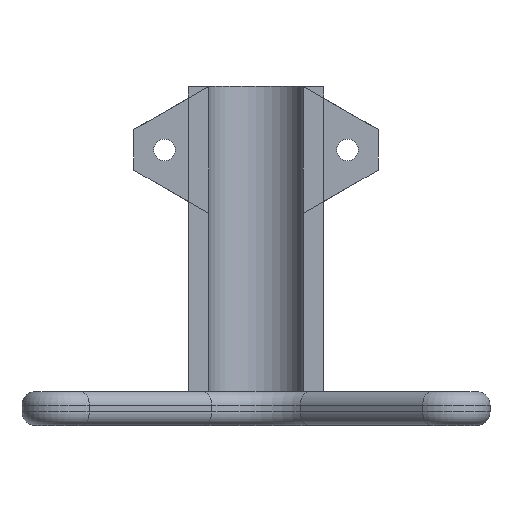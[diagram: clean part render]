
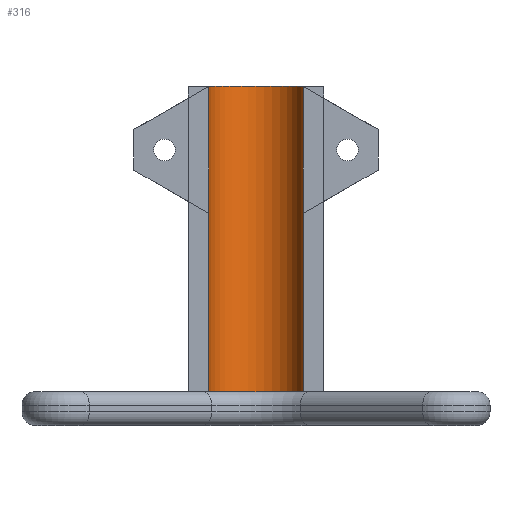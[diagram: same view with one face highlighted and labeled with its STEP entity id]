
A CAD part, left-side view. The second image highlights one B-rep face of the part: STEP entity #316.
In plain terms, the highlighted cylindrical face has radius 7 mm (diameter 14 mm), a partial arc.
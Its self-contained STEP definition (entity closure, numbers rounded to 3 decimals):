
#33 = CYLINDRICAL_SURFACE('',#34,7.);
#34 = AXIS2_PLACEMENT_3D('',#35,#36,#37);
#35 = CARTESIAN_POINT('',(0.,0.,0.));
#36 = DIRECTION('',(-0.,-0.,-1.));
#37 = DIRECTION('',(1.,0.,0.));
#58 = VERTEX_POINT('',#59);
#59 = CARTESIAN_POINT('',(7.,0.,5.));
#73 = CYLINDRICAL_SURFACE('',#74,7.);
#74 = AXIS2_PLACEMENT_3D('',#75,#76,#77);
#75 = CARTESIAN_POINT('',(0.,0.,0.));
#76 = DIRECTION('',(-0.,-0.,-1.));
#77 = DIRECTION('',(1.,0.,0.));
#85 = EDGE_CURVE('',#58,#86,#88,.T.);
#86 = VERTEX_POINT('',#87);
#87 = CARTESIAN_POINT('',(0.,7.,5.));
#88 = SURFACE_CURVE('',#89,(#94,#101),.PCURVE_S1.);
#89 = CIRCLE('',#90,7.);
#90 = AXIS2_PLACEMENT_3D('',#91,#92,#93);
#91 = CARTESIAN_POINT('',(0.,0.,5.));
#92 = DIRECTION('',(0.,0.,1.));
#93 = DIRECTION('',(1.,0.,0.));
#94 = PCURVE('',#33,#95);
#95 = DEFINITIONAL_REPRESENTATION('',(#96),#100);
#96 = LINE('',#97,#98);
#97 = CARTESIAN_POINT('',(-0.,-5.));
#98 = VECTOR('',#99,1.);
#99 = DIRECTION('',(-1.,0.));
#100 = ( GEOMETRIC_REPRESENTATION_CONTEXT(2) 
PARAMETRIC_REPRESENTATION_CONTEXT() REPRESENTATION_CONTEXT('2D SPACE',''
  ) );
#101 = PCURVE('',#102,#107);
#102 = CYLINDRICAL_SURFACE('',#103,7.);
#103 = AXIS2_PLACEMENT_3D('',#104,#105,#106);
#104 = CARTESIAN_POINT('',(0.,0.,0.));
#105 = DIRECTION('',(-0.,-0.,-1.));
#106 = DIRECTION('',(1.,0.,0.));
#107 = DEFINITIONAL_REPRESENTATION('',(#108),#112);
#108 = LINE('',#109,#110);
#109 = CARTESIAN_POINT('',(-6.283,-5.));
#110 = VECTOR('',#111,1.);
#111 = DIRECTION('',(-1.,0.));
#112 = ( GEOMETRIC_REPRESENTATION_CONTEXT(2) 
PARAMETRIC_REPRESENTATION_CONTEXT() REPRESENTATION_CONTEXT('2D SPACE',''
  ) );
#268 = VERTEX_POINT('',#269);
#269 = CARTESIAN_POINT('',(0.,-7.,5.));
#316 = ADVANCED_FACE('',(#317),#102,.F.);
#317 = FACE_BOUND('',#318,.T.);
#318 = EDGE_LOOP('',(#319,#341,#369,#397,#426,#454,#480));
#319 = ORIENTED_EDGE('',*,*,#320,.F.);
#320 = EDGE_CURVE('',#268,#58,#321,.T.);
#321 = SURFACE_CURVE('',#322,(#327,#334),.PCURVE_S1.);
#322 = CIRCLE('',#323,7.);
#323 = AXIS2_PLACEMENT_3D('',#324,#325,#326);
#324 = CARTESIAN_POINT('',(0.,0.,5.));
#325 = DIRECTION('',(0.,0.,1.));
#326 = DIRECTION('',(1.,0.,0.));
#327 = PCURVE('',#102,#328);
#328 = DEFINITIONAL_REPRESENTATION('',(#329),#333);
#329 = LINE('',#330,#331);
#330 = CARTESIAN_POINT('',(0.,-5.));
#331 = VECTOR('',#332,1.);
#332 = DIRECTION('',(-1.,0.));
#333 = ( GEOMETRIC_REPRESENTATION_CONTEXT(2) 
PARAMETRIC_REPRESENTATION_CONTEXT() REPRESENTATION_CONTEXT('2D SPACE',''
  ) );
#334 = PCURVE('',#73,#335);
#335 = DEFINITIONAL_REPRESENTATION('',(#336),#340);
#336 = LINE('',#337,#338);
#337 = CARTESIAN_POINT('',(-0.,-5.));
#338 = VECTOR('',#339,1.);
#339 = DIRECTION('',(-1.,0.));
#340 = ( GEOMETRIC_REPRESENTATION_CONTEXT(2) 
PARAMETRIC_REPRESENTATION_CONTEXT() REPRESENTATION_CONTEXT('2D SPACE',''
  ) );
#341 = ORIENTED_EDGE('',*,*,#342,.T.);
#342 = EDGE_CURVE('',#268,#343,#345,.T.);
#343 = VERTEX_POINT('',#344);
#344 = CARTESIAN_POINT('',(0.,-7.,31.298));
#345 = SURFACE_CURVE('',#346,(#350,#357),.PCURVE_S1.);
#346 = LINE('',#347,#348);
#347 = CARTESIAN_POINT('',(0.,-7.,0.));
#348 = VECTOR('',#349,1.);
#349 = DIRECTION('',(0.,0.,1.));
#350 = PCURVE('',#102,#351);
#351 = DEFINITIONAL_REPRESENTATION('',(#352),#356);
#352 = LINE('',#353,#354);
#353 = CARTESIAN_POINT('',(-4.712,0.));
#354 = VECTOR('',#355,1.);
#355 = DIRECTION('',(-0.,-1.));
#356 = ( GEOMETRIC_REPRESENTATION_CONTEXT(2) 
PARAMETRIC_REPRESENTATION_CONTEXT() REPRESENTATION_CONTEXT('2D SPACE',''
  ) );
#357 = PCURVE('',#358,#363);
#358 = PLANE('',#359);
#359 = AXIS2_PLACEMENT_3D('',#360,#361,#362);
#360 = CARTESIAN_POINT('',(0.,-7.,0.));
#361 = DIRECTION('',(1.,0.,0.));
#362 = DIRECTION('',(0.,-1.,0.));
#363 = DEFINITIONAL_REPRESENTATION('',(#364),#368);
#364 = LINE('',#365,#366);
#365 = CARTESIAN_POINT('',(0.,0.));
#366 = VECTOR('',#367,1.);
#367 = DIRECTION('',(0.,-1.));
#368 = ( GEOMETRIC_REPRESENTATION_CONTEXT(2) 
PARAMETRIC_REPRESENTATION_CONTEXT() REPRESENTATION_CONTEXT('2D SPACE',''
  ) );
#369 = ORIENTED_EDGE('',*,*,#370,.T.);
#370 = EDGE_CURVE('',#343,#371,#373,.T.);
#371 = VERTEX_POINT('',#372);
#372 = CARTESIAN_POINT('',(0.,-7.,50.));
#373 = SURFACE_CURVE('',#374,(#378,#385),.PCURVE_S1.);
#374 = LINE('',#375,#376);
#375 = CARTESIAN_POINT('',(0.,-7.,0.));
#376 = VECTOR('',#377,1.);
#377 = DIRECTION('',(0.,0.,1.));
#378 = PCURVE('',#102,#379);
#379 = DEFINITIONAL_REPRESENTATION('',(#380),#384);
#380 = LINE('',#381,#382);
#381 = CARTESIAN_POINT('',(-4.712,0.));
#382 = VECTOR('',#383,1.);
#383 = DIRECTION('',(-0.,-1.));
#384 = ( GEOMETRIC_REPRESENTATION_CONTEXT(2) 
PARAMETRIC_REPRESENTATION_CONTEXT() REPRESENTATION_CONTEXT('2D SPACE',''
  ) );
#385 = PCURVE('',#386,#391);
#386 = PLANE('',#387);
#387 = AXIS2_PLACEMENT_3D('',#388,#389,#390);
#388 = CARTESIAN_POINT('',(0.,-7.,0.));
#389 = DIRECTION('',(1.,0.,0.));
#390 = DIRECTION('',(0.,-1.,0.));
#391 = DEFINITIONAL_REPRESENTATION('',(#392),#396);
#392 = LINE('',#393,#394);
#393 = CARTESIAN_POINT('',(0.,0.));
#394 = VECTOR('',#395,1.);
#395 = DIRECTION('',(0.,-1.));
#396 = ( GEOMETRIC_REPRESENTATION_CONTEXT(2) 
PARAMETRIC_REPRESENTATION_CONTEXT() REPRESENTATION_CONTEXT('2D SPACE',''
  ) );
#397 = ORIENTED_EDGE('',*,*,#398,.T.);
#398 = EDGE_CURVE('',#371,#399,#401,.T.);
#399 = VERTEX_POINT('',#400);
#400 = CARTESIAN_POINT('',(0.,7.,50.));
#401 = SURFACE_CURVE('',#402,(#407,#414),.PCURVE_S1.);
#402 = CIRCLE('',#403,7.);
#403 = AXIS2_PLACEMENT_3D('',#404,#405,#406);
#404 = CARTESIAN_POINT('',(0.,0.,50.));
#405 = DIRECTION('',(0.,0.,1.));
#406 = DIRECTION('',(1.,0.,0.));
#407 = PCURVE('',#102,#408);
#408 = DEFINITIONAL_REPRESENTATION('',(#409),#413);
#409 = LINE('',#410,#411);
#410 = CARTESIAN_POINT('',(-0.,-50.));
#411 = VECTOR('',#412,1.);
#412 = DIRECTION('',(-1.,0.));
#413 = ( GEOMETRIC_REPRESENTATION_CONTEXT(2) 
PARAMETRIC_REPRESENTATION_CONTEXT() REPRESENTATION_CONTEXT('2D SPACE',''
  ) );
#414 = PCURVE('',#415,#420);
#415 = PLANE('',#416);
#416 = AXIS2_PLACEMENT_3D('',#417,#418,#419);
#417 = CARTESIAN_POINT('',(4.528,0.,50.));
#418 = DIRECTION('',(0.,0.,1.));
#419 = DIRECTION('',(1.,0.,0.));
#420 = DEFINITIONAL_REPRESENTATION('',(#421),#425);
#421 = CIRCLE('',#422,7.);
#422 = AXIS2_PLACEMENT_2D('',#423,#424);
#423 = CARTESIAN_POINT('',(-4.528,0.));
#424 = DIRECTION('',(1.,0.));
#425 = ( GEOMETRIC_REPRESENTATION_CONTEXT(2) 
PARAMETRIC_REPRESENTATION_CONTEXT() REPRESENTATION_CONTEXT('2D SPACE',''
  ) );
#426 = ORIENTED_EDGE('',*,*,#427,.F.);
#427 = EDGE_CURVE('',#428,#399,#430,.T.);
#428 = VERTEX_POINT('',#429);
#429 = CARTESIAN_POINT('',(0.,7.,31.298));
#430 = SURFACE_CURVE('',#431,(#435,#442),.PCURVE_S1.);
#431 = LINE('',#432,#433);
#432 = CARTESIAN_POINT('',(0.,7.,0.));
#433 = VECTOR('',#434,1.);
#434 = DIRECTION('',(0.,0.,1.));
#435 = PCURVE('',#102,#436);
#436 = DEFINITIONAL_REPRESENTATION('',(#437),#441);
#437 = LINE('',#438,#439);
#438 = CARTESIAN_POINT('',(-7.854,0.));
#439 = VECTOR('',#440,1.);
#440 = DIRECTION('',(-0.,-1.));
#441 = ( GEOMETRIC_REPRESENTATION_CONTEXT(2) 
PARAMETRIC_REPRESENTATION_CONTEXT() REPRESENTATION_CONTEXT('2D SPACE',''
  ) );
#442 = PCURVE('',#443,#448);
#443 = PLANE('',#444);
#444 = AXIS2_PLACEMENT_3D('',#445,#446,#447);
#445 = CARTESIAN_POINT('',(0.,10.,0.));
#446 = DIRECTION('',(1.,0.,0.));
#447 = DIRECTION('',(0.,-1.,0.));
#448 = DEFINITIONAL_REPRESENTATION('',(#449),#453);
#449 = LINE('',#450,#451);
#450 = CARTESIAN_POINT('',(3.,0.));
#451 = VECTOR('',#452,1.);
#452 = DIRECTION('',(0.,-1.));
#453 = ( GEOMETRIC_REPRESENTATION_CONTEXT(2) 
PARAMETRIC_REPRESENTATION_CONTEXT() REPRESENTATION_CONTEXT('2D SPACE',''
  ) );
#454 = ORIENTED_EDGE('',*,*,#455,.F.);
#455 = EDGE_CURVE('',#86,#428,#456,.T.);
#456 = SURFACE_CURVE('',#457,(#461,#468),.PCURVE_S1.);
#457 = LINE('',#458,#459);
#458 = CARTESIAN_POINT('',(0.,7.,0.));
#459 = VECTOR('',#460,1.);
#460 = DIRECTION('',(0.,0.,1.));
#461 = PCURVE('',#102,#462);
#462 = DEFINITIONAL_REPRESENTATION('',(#463),#467);
#463 = LINE('',#464,#465);
#464 = CARTESIAN_POINT('',(-7.854,0.));
#465 = VECTOR('',#466,1.);
#466 = DIRECTION('',(-0.,-1.));
#467 = ( GEOMETRIC_REPRESENTATION_CONTEXT(2) 
PARAMETRIC_REPRESENTATION_CONTEXT() REPRESENTATION_CONTEXT('2D SPACE',''
  ) );
#468 = PCURVE('',#469,#474);
#469 = PLANE('',#470);
#470 = AXIS2_PLACEMENT_3D('',#471,#472,#473);
#471 = CARTESIAN_POINT('',(0.,10.,0.));
#472 = DIRECTION('',(1.,0.,0.));
#473 = DIRECTION('',(0.,-1.,0.));
#474 = DEFINITIONAL_REPRESENTATION('',(#475),#479);
#475 = LINE('',#476,#477);
#476 = CARTESIAN_POINT('',(3.,0.));
#477 = VECTOR('',#478,1.);
#478 = DIRECTION('',(0.,-1.));
#479 = ( GEOMETRIC_REPRESENTATION_CONTEXT(2) 
PARAMETRIC_REPRESENTATION_CONTEXT() REPRESENTATION_CONTEXT('2D SPACE',''
  ) );
#480 = ORIENTED_EDGE('',*,*,#85,.F.);
